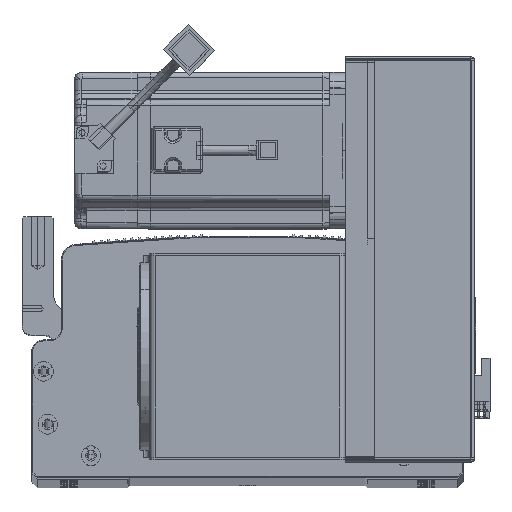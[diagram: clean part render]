
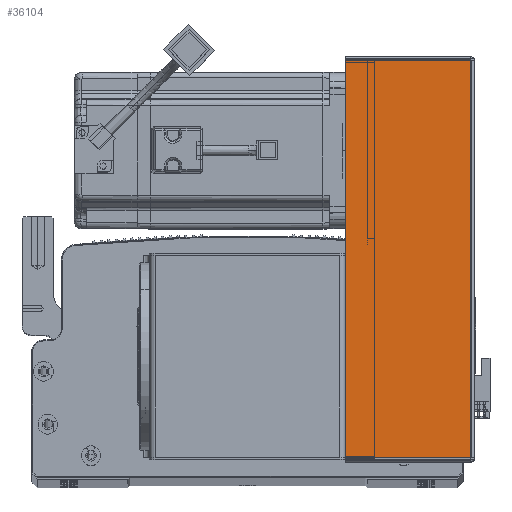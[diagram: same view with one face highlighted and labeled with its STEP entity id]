
A CAD part, top view. The second image highlights one B-rep face of the part: STEP entity #36104.
In plain terms, the highlighted planar face has unit normal (0, 0, 1) as drawn and (0, -1, 0) by its records, which use the part's own axes.
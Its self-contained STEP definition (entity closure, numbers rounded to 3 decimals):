
#632 = DIRECTION ( 'NONE',  ( 0., 0., 1. ) ) ;
#3759 = LINE ( 'NONE', #21849, #9489 ) ;
#5220 = PLANE ( 'NONE',  #64419 ) ;
#5974 = LINE ( 'NONE', #12637, #32448 ) ;
#9284 = CARTESIAN_POINT ( 'NONE',  ( 0., -1.5, -203.293 ) ) ;
#9489 = VECTOR ( 'NONE', #632, 1000. ) ;
#12637 = CARTESIAN_POINT ( 'NONE',  ( 64.5, -1.5, 0. ) ) ;
#13211 = CARTESIAN_POINT ( 'NONE',  ( 0.737, -1.5, -0.707 ) ) ;
#14572 = FACE_OUTER_BOUND ( 'NONE', #70099, .T. ) ;
#14875 = EDGE_CURVE ( 'NONE', #31020, #70122, #33728, .T. ) ;
#15239 = CARTESIAN_POINT ( 'NONE',  ( 0.737, -1.5, -203.293 ) ) ;
#15769 = ORIENTED_EDGE ( 'NONE', *, *, #31405, .T. ) ;
#18983 = CARTESIAN_POINT ( 'NONE',  ( 0., -1.5, -0.707 ) ) ;
#21849 = CARTESIAN_POINT ( 'NONE',  ( 0.737, -1.5, 0. ) ) ;
#26080 = DIRECTION ( 'NONE',  ( 1., 0., 0. ) ) ;
#26823 = VECTOR ( 'NONE', #47177, 1000. ) ;
#27596 = VERTEX_POINT ( 'NONE', #13211 ) ;
#28337 = DIRECTION ( 'NONE',  ( -1., 0., 0. ) ) ;
#31020 = VERTEX_POINT ( 'NONE', #15239 ) ;
#31405 = EDGE_CURVE ( 'NONE', #70122, #70425, #5974, .T. ) ;
#32448 = VECTOR ( 'NONE', #42197, 1000. ) ;
#33728 = LINE ( 'NONE', #9284, #26823 ) ;
#36104 = ADVANCED_FACE ( 'NONE', ( #14572 ), #5220, .F. ) ;
#39066 = EDGE_CURVE ( 'NONE', #31020, #27596, #3759, .T. ) ;
#40923 = VECTOR ( 'NONE', #26080, 1000. ) ;
#42197 = DIRECTION ( 'NONE',  ( 0., 0., 1. ) ) ;
#44172 = CARTESIAN_POINT ( 'NONE',  ( 64.5, -1.5, -0.707 ) ) ;
#47177 = DIRECTION ( 'NONE',  ( 1., 0., 0. ) ) ;
#51692 = ORIENTED_EDGE ( 'NONE', *, *, #39066, .F. ) ;
#56587 = DIRECTION ( 'NONE',  ( 0., 1., 0. ) ) ;
#56899 = CARTESIAN_POINT ( 'NONE',  ( 0., -1.5, 0. ) ) ;
#64419 = AXIS2_PLACEMENT_3D ( 'NONE', #56899, #56587, #28337 ) ;
#67989 = ORIENTED_EDGE ( 'NONE', *, *, #14875, .T. ) ;
#70099 = EDGE_LOOP ( 'NONE', ( #51692, #67989, #15769, #74950 ) ) ;
#70122 = VERTEX_POINT ( 'NONE', #84133 ) ;
#70425 = VERTEX_POINT ( 'NONE', #44172 ) ;
#74950 = ORIENTED_EDGE ( 'NONE', *, *, #86083, .F. ) ;
#84133 = CARTESIAN_POINT ( 'NONE',  ( 64.5, -1.5, -203.293 ) ) ;
#86083 = EDGE_CURVE ( 'NONE', #27596, #70425, #90393, .T. ) ;
#90393 = LINE ( 'NONE', #18983, #40923 ) ;
